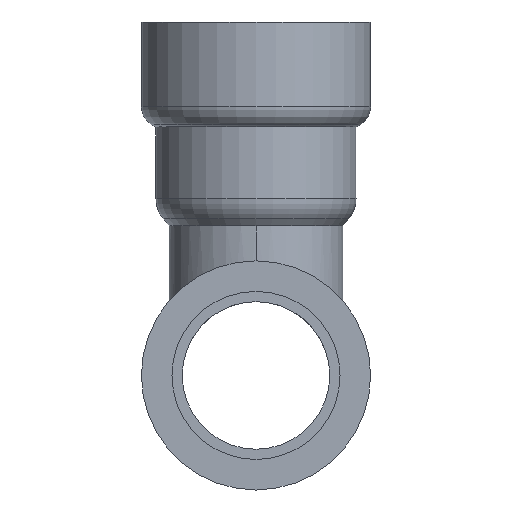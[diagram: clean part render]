
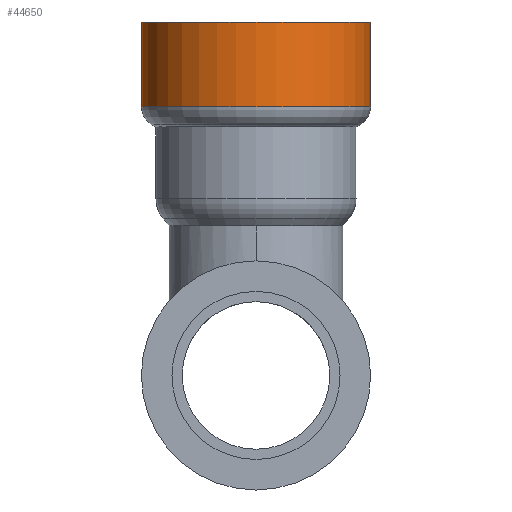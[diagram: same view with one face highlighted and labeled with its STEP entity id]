
A CAD part, left-side view. The second image highlights one B-rep face of the part: STEP entity #44650.
In plain terms, the highlighted cylindrical face has radius 18.95 mm (diameter 37.9 mm), a partial arc.
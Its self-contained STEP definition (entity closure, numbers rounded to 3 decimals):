
#44240=CARTESIAN_POINT('',(79.926,39.288,45.382));
#44250=DIRECTION('',(0.,0.,-1.));
#44260=DIRECTION('',(0.,1.,
0.));
#44270=AXIS2_PLACEMENT_3D('',#44240,#44250,#44260);
#44280=CYLINDRICAL_SURFACE('',#44270,18.95);
#44290=CARTESIAN_POINT('',(79.926,20.338,
45.382));
#44300=DIRECTION('',(0.,0.,-1.));
#44310=VECTOR('',#44300,1.);
#44320=LINE('',#44290,#44310);
#44330=CARTESIAN_POINT('',(79.926,20.338,
58.452));
#44340=VERTEX_POINT('',#44330);
#44350=CARTESIAN_POINT('',(79.926,20.338,
44.424));
#44360=VERTEX_POINT('',#44350);
#44370=EDGE_CURVE('',#44340,#44360,#44320,.T.);
#44380=ORIENTED_EDGE('',*,*,#44370,.F.);
#44390=CARTESIAN_POINT('',(79.926,39.288,44.424));
#44400=DIRECTION('',(0.,0.,1.));
#44410=DIRECTION('',(0.,1.,
0.));
#44420=AXIS2_PLACEMENT_3D('',#44390,#44400,#44410);
#44430=CIRCLE('',#44420,18.95);
#44440=CARTESIAN_POINT('',(79.927,58.238,
44.424));
#44450=VERTEX_POINT('',#44440);
#44460=EDGE_CURVE('',#44450,#44360,#44430,.T.);
#44470=ORIENTED_EDGE('',*,*,#44460,.T.);
#44480=CARTESIAN_POINT('',(79.927,58.238,
45.382));
#44490=DIRECTION('',(0.,0.,-1.));
#44500=VECTOR('',#44490,1.);
#44510=LINE('',#44480,#44500);
#44520=CARTESIAN_POINT('',(79.927,58.238,
58.452));
#44530=VERTEX_POINT('',#44520);
#44540=EDGE_CURVE('',#44530,#44450,#44510,.T.);
#44550=ORIENTED_EDGE('',*,*,#44540,.T.);
#44560=CARTESIAN_POINT('',(79.926,39.288,58.452));
#44570=DIRECTION('',(0.,0.,-1.));
#44580=DIRECTION('',(0.,1.,
0.));
#44590=AXIS2_PLACEMENT_3D('',#44560,#44570,#44580);
#44600=CIRCLE('',#44590,18.95);
#44610=EDGE_CURVE('',#44340,#44530,#44600,.T.);
#44620=ORIENTED_EDGE('',*,*,#44610,.T.);
#44630=EDGE_LOOP('',(#44620,#44550,#44470,#44380));
#44640=FACE_OUTER_BOUND('',#44630,.T.);
#44650=ADVANCED_FACE('',(#44640),#44280,.T.);
